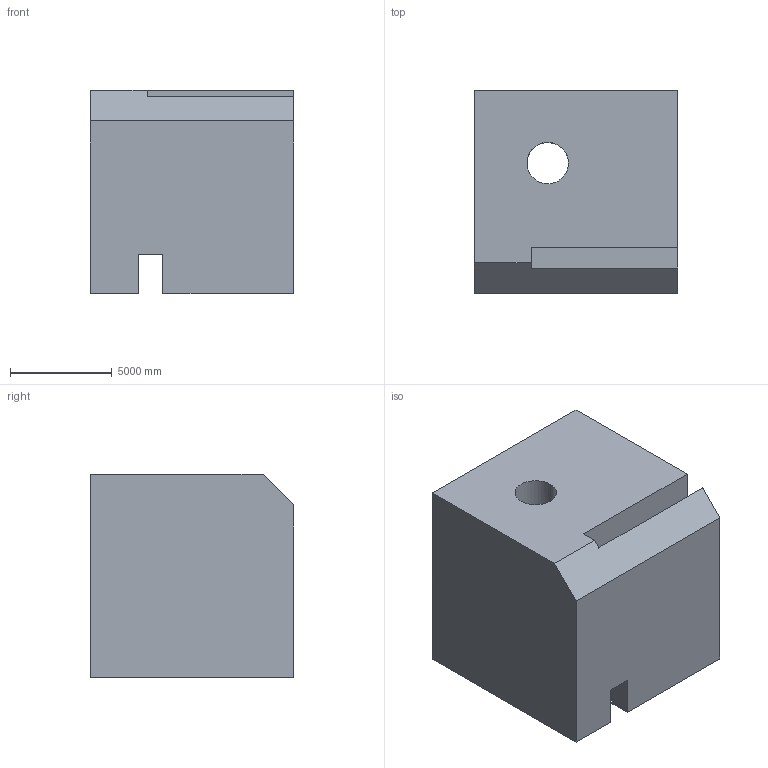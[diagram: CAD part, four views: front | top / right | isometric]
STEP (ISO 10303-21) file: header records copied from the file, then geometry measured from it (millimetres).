
FILE_DESCRIPTION (( 'STEP AP203' ), '1' );
FILE_NAME ('1419.STEP', '2022-08-18T14:21:54', ( 'user' ), ( '' ), 'SwSTEP 2.0', 'SolidWorks 2021', '' );
FILE_SCHEMA (( 'CONFIG_CONTROL_DESIGN' ));
Length unit declared in the file: centimetre
Products named in the file (1): 1419
Bounding box: 10000 x 10000 x 10000 mm (x, y, z)
Volume: 900420881520 mm3; surface area: 707695183.2 mm2
Topology: 1 solids, 1 shells, 26 faces, 75 edges, 50 vertices
Faces by surface type: plane 20, cylinder 6
Entity records: 934 total; most frequent: CARTESIAN_POINT 152, ORIENTED_EDGE 150, DIRECTION 143, EDGE_CURVE 75, LINE 61, VECTOR 61, VERTEX_POINT 50, AXIS2_PLACEMENT_3D 41
